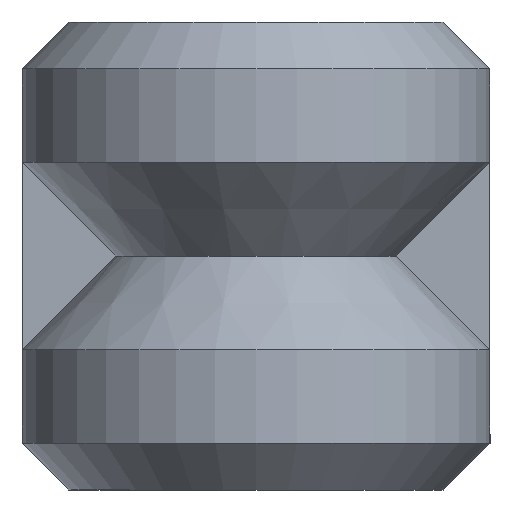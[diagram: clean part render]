
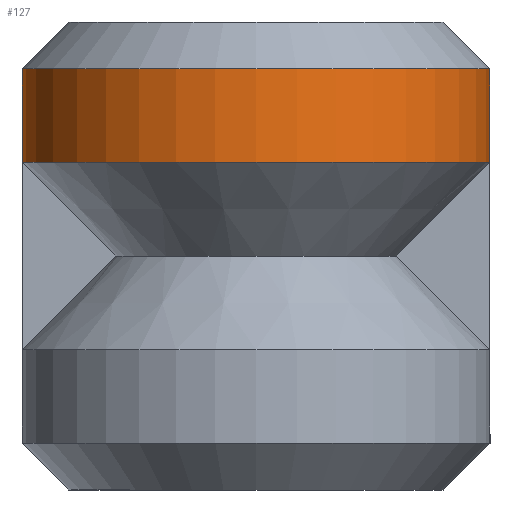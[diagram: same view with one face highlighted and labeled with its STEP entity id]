
A CAD part, left-side view. The second image highlights one B-rep face of the part: STEP entity #127.
In plain terms, the highlighted cylindrical face has radius 2.5 mm (diameter 5 mm), a partial arc.
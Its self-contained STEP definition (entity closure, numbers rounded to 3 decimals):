
#31 = EDGE_CURVE ( 'NONE', #791, #215, #351, .T. ) ;
#43 = CARTESIAN_POINT ( 'NONE',  ( 0., 2.5, 3.5 ) ) ;
#45 = DIRECTION ( 'NONE',  ( 0., 0., -1. ) ) ;
#68 = CYLINDRICAL_SURFACE ( 'NONE', #78, 2.5 ) ;
#75 = DIRECTION ( 'NONE',  ( 0., -1., 0. ) ) ;
#78 = AXIS2_PLACEMENT_3D ( 'NONE', #141, #45, #882 ) ;
#95 = ORIENTED_EDGE ( 'NONE', *, *, #31, .F. ) ;
#127 = ADVANCED_FACE ( 'NONE', ( #973 ), #68, .T. ) ;
#132 = CARTESIAN_POINT ( 'NONE',  ( 0., 0., 4.5 ) ) ;
#141 = CARTESIAN_POINT ( 'NONE',  ( 0., 0., 2.5 ) ) ;
#149 = DIRECTION ( 'NONE',  ( 0., 0., 1. ) ) ;
#194 = CARTESIAN_POINT ( 'NONE',  ( 0., -2.5, 3.5 ) ) ;
#215 = VERTEX_POINT ( 'NONE', #298 ) ;
#230 = CARTESIAN_POINT ( 'NONE',  ( 0., 2.5, 4.1 ) ) ;
#247 = CARTESIAN_POINT ( 'NONE',  ( 0., 2.5, 4.5 ) ) ;
#292 = VECTOR ( 'NONE', #1301, 1000. ) ;
#298 = CARTESIAN_POINT ( 'NONE',  ( 0., 2.5, 4.5 ) ) ;
#312 = VECTOR ( 'NONE', #149, 1000. ) ;
#313 = CARTESIAN_POINT ( 'NONE',  ( 0., -2.5, 4.5 ) ) ;
#331 = CIRCLE ( 'NONE', #1156, 2.5 ) ;
#341 = ORIENTED_EDGE ( 'NONE', *, *, #961, .T. ) ;
#351 = LINE ( 'NONE', #247, #312 ) ;
#364 = CARTESIAN_POINT ( 'NONE',  ( 0., -2.5, 4.5 ) ) ;
#384 = CARTESIAN_POINT ( 'NONE',  ( 0., 2.5, 2.5 ) ) ;
#435 = VERTEX_POINT ( 'NONE', #364 ) ;
#454 = VERTEX_POINT ( 'NONE', #43 ) ;
#592 = ORIENTED_EDGE ( 'NONE', *, *, #875, .F. ) ;
#624 = DIRECTION ( 'NONE',  ( 0., 0., 1. ) ) ;
#711 = CARTESIAN_POINT ( 'NONE',  ( 0., -2.5, 2.5 ) ) ;
#719 = EDGE_CURVE ( 'NONE', #799, #746, #903, .T. ) ;
#746 = VERTEX_POINT ( 'NONE', #194 ) ;
#753 = DIRECTION ( 'NONE',  ( 0., -1., 0. ) ) ;
#769 = DIRECTION ( 'NONE',  ( 0., 0., 1. ) ) ;
#782 = CARTESIAN_POINT ( 'NONE',  ( 0., 0., 3.5 ) ) ;
#791 = VERTEX_POINT ( 'NONE', #230 ) ;
#799 = VERTEX_POINT ( 'NONE', #943 ) ;
#816 = LINE ( 'NONE', #313, #984 ) ;
#875 = EDGE_CURVE ( 'NONE', #215, #435, #883, .T. ) ;
#882 = DIRECTION ( 'NONE',  ( 0., -1., 0. ) ) ;
#883 = CIRCLE ( 'NONE', #983, 2.5 ) ;
#891 = LINE ( 'NONE', #384, #901 ) ;
#901 = VECTOR ( 'NONE', #1286, 1000. ) ;
#903 = LINE ( 'NONE', #711, #292 ) ;
#928 = EDGE_CURVE ( 'NONE', #791, #454, #891, .T. ) ;
#943 = CARTESIAN_POINT ( 'NONE',  ( 0., -2.5, 4.1 ) ) ;
#961 = EDGE_CURVE ( 'NONE', #454, #746, #331, .T. ) ;
#973 = FACE_OUTER_BOUND ( 'NONE', #1223, .T. ) ;
#983 = AXIS2_PLACEMENT_3D ( 'NONE', #132, #1243, #753 ) ;
#984 = VECTOR ( 'NONE', #624, 1000. ) ;
#1156 = AXIS2_PLACEMENT_3D ( 'NONE', #782, #769, #75 ) ;
#1171 = ORIENTED_EDGE ( 'NONE', *, *, #1235, .T. ) ;
#1179 = ORIENTED_EDGE ( 'NONE', *, *, #928, .T. ) ;
#1223 = EDGE_LOOP ( 'NONE', ( #95, #1179, #341, #1233, #1171, #592 ) ) ;
#1233 = ORIENTED_EDGE ( 'NONE', *, *, #719, .F. ) ;
#1235 = EDGE_CURVE ( 'NONE', #799, #435, #816, .T. ) ;
#1243 = DIRECTION ( 'NONE',  ( 0., 0., 1. ) ) ;
#1286 = DIRECTION ( 'NONE',  ( 0., 0., -1. ) ) ;
#1301 = DIRECTION ( 'NONE',  ( 0., 0., -1. ) ) ;
